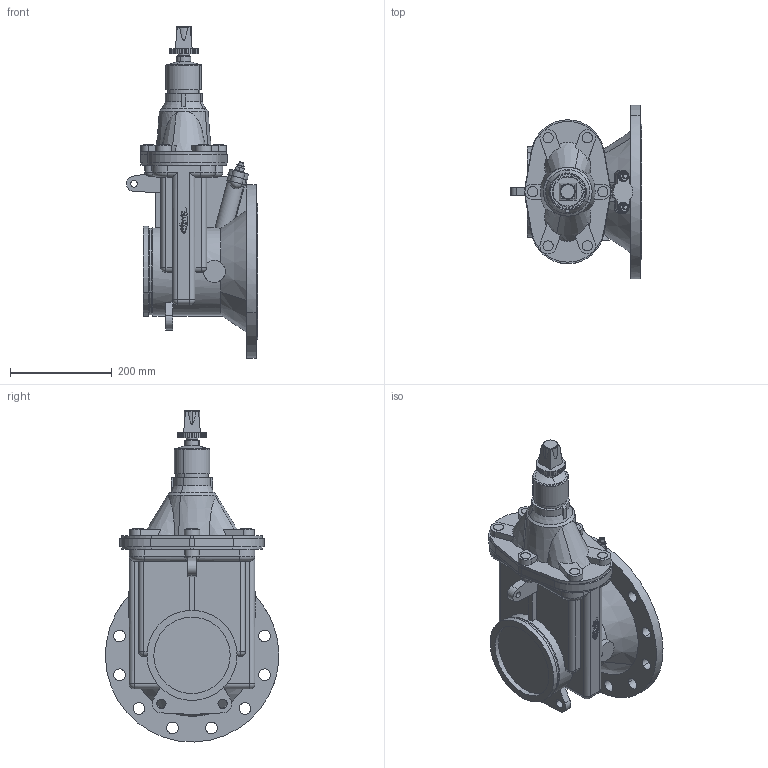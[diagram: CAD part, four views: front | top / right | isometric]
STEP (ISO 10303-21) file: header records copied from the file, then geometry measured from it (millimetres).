
FILE_DESCRIPTION(('CATIA V5 STEP Exchange','CAx-IF Rec.Pracs.--- Model Styling and Organization---1.2---2011-12-15'),'2;1');
FILE_NAME('S:\USER\CAT6\3DPlanerdaten_ab_2012\_pit-cup_ab_03-10-2016\4420\CATIA\4190E2_PN16_DN150-DN200-sauber.stp','2018-04-16T09:41:55+00:00',('none'),('none'),'CATIA Version 5 Release 21 SP 5 (IN-10)','CATIA V5 STEP AP214 Edition 3','none');
FILE_SCHEMA(('AUTOMOTIVE_DESIGN { 1 0 10303 214 3 1 1 1 }'));
Length unit declared in the file: millimetre
Products named in the file (1): 4190E2_PN16_DN150-DN200
Bounding box: 257.55 x 340.51 x 652.25 mm (x, y, z)
Volume: 12625084.5 mm3; surface area: 646458.9 mm2
Topology: 17 solids, 21 shells, 871 faces, 2331 edges, 1521 vertices
Faces by surface type: plane 642, cylinder 175, cone 34, torus 12, sphere 8
Entity records: 26831 total; most frequent: CARTESIAN_POINT 5631, ORIENTED_EDGE 4646, DIRECTION 3652, EDGE_CURVE 2323, VECTOR 1798, LINE 1798, VERTEX_POINT 1521, AXIS2_PLACEMENT_3D 1123
